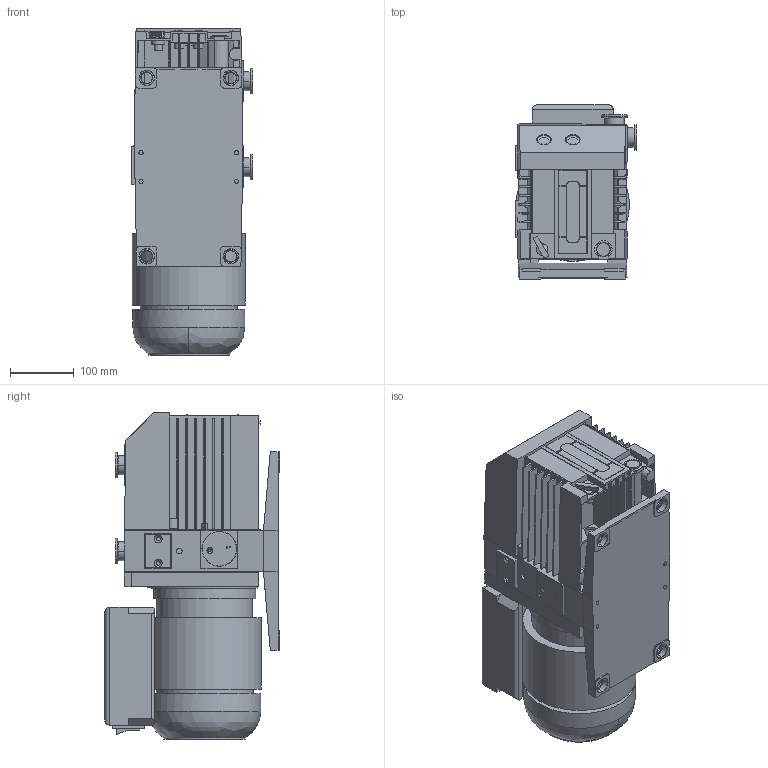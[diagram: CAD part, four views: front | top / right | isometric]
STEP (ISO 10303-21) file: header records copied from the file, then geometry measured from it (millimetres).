
FILE_DESCRIPTION((''),'2;1');
FILE_NAME('300591420_Y19_000_ASM','2016-03-17T',('56762'),('Copyright by Leybold GmbH'),'PRO/ENGINEER BY PARAMETRIC TECHNOLOGY CORPORATION, 2013320','PRO/ENGINEER BY PARAMETRIC TECHNOLOGY CORPORATION, 2013320','');
FILE_SCHEMA(('AUTOMOTIVE_DESIGN { 1 0 10303 214 1 1 1 1 }'));
Length unit declared in the file: millimetre
Products named in the file (19): 300591418_Y19_000; 300591187_Y19_000; 300591206_Y19_000; 300591212_Y19_000; 300591215_Y19_000; 300591188_Y19_000; 300591211_Y19_000; 300591416_Y19_000; 300590946_Y19_000; 300591208_Y19_000; 300591209_Y19_000; 300591419_Y19_000_ASM; 300591424_Y19_000; 300590935_Y19_000; 300590913_Y19_000; 300590922_Y19_000_ASM; 300591217_Y19_000; 300591196_Y19_000; 300591420_Y19_000_ASM
Assembly tree (23 placements, depth 3):
  300591420_Y19_000_ASM
    300591419_Y19_000_ASM
      300591418_Y19_000
      300591187_Y19_000
      300591206_Y19_000
      300591212_Y19_000
      300591215_Y19_000
      300591188_Y19_000
      300591211_Y19_000
      300591416_Y19_000
      300590946_Y19_000
      300591208_Y19_000
      300591209_Y19_000
    300591424_Y19_000
    300590935_Y19_000  x3
    300590922_Y19_000_ASM
      300590913_Y19_000
    300591217_Y19_000
    300591196_Y19_000  x4
Bounding box: 190.9 x 274.2 x 511.79 mm (x, y, z)
Volume: 16532586.6 mm3; surface area: 1209683.9 mm2
Topology: 20 solids, 27 shells, 1082 faces, 2786 edges, 1821 vertices
Faces by surface type: plane 718, cylinder 248, cone 114, bspline 2
Entity records: 30213 total; most frequent: CARTESIAN_POINT 6437, ORIENTED_EDGE 4708, DIRECTION 4664, EDGE_CURVE 2354, VECTOR 1760, LINE 1760, VERTEX_POINT 1545, AXIS2_PLACEMENT_3D 1452
